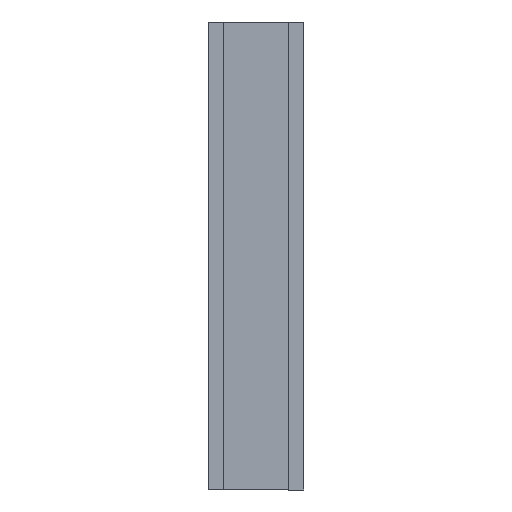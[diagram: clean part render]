
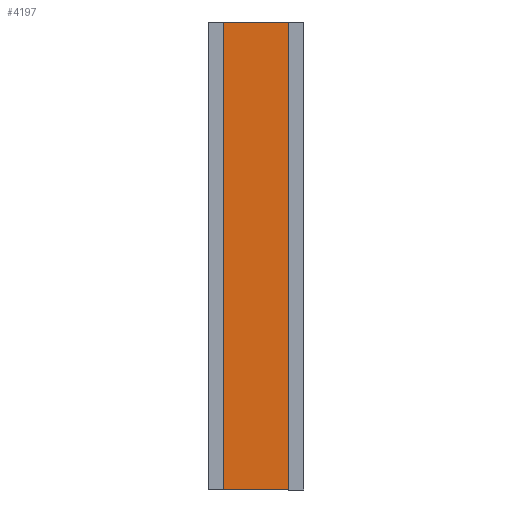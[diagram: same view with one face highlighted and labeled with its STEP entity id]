
A CAD part, left-side view. The second image highlights one B-rep face of the part: STEP entity #4197.
In plain terms, the highlighted planar face has unit normal (-1, 0, 0).
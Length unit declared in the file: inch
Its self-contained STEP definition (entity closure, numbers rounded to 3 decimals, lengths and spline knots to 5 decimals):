
#316 = LINE ( 'NONE', #5793, #2764 ) ;
#1090 = VECTOR ( 'NONE', #8796, 39.37008 ) ;
#1620 = CARTESIAN_POINT ( 'NONE',  ( -1.555, 0.375, -1.3425 ) ) ;
#2076 = VECTOR ( 'NONE', #9515, 39.37008 ) ;
#2213 = ORIENTED_EDGE ( 'NONE', *, *, #4986, .F. ) ;
#2315 = LINE ( 'NONE', #3945, #1090 ) ;
#2343 = CARTESIAN_POINT ( 'NONE',  ( -1.555, 0.375, 1.3425 ) ) ;
#2693 = VERTEX_POINT ( 'NONE', #9944 ) ;
#2764 = VECTOR ( 'NONE', #9122, 39.37008 ) ;
#2903 = VECTOR ( 'NONE', #4877, 39.37008 ) ;
#3080 = LINE ( 'NONE', #2343, #2076 ) ;
#3239 = FACE_OUTER_BOUND ( 'NONE', #6248, .T. ) ;
#3297 = PLANE ( 'NONE',  #7437 ) ;
#3945 = CARTESIAN_POINT ( 'NONE',  ( -1.555, 0., -1.3425 ) ) ;
#3978 = DIRECTION ( 'NONE',  ( 1., 0., 0. ) ) ;
#4197 = ADVANCED_FACE ( 'NONE', ( #3239 ), #3297, .F. ) ;
#4364 = VERTEX_POINT ( 'NONE', #8449 ) ;
#4820 = VERTEX_POINT ( 'NONE', #7898 ) ;
#4877 = DIRECTION ( 'NONE',  ( 0., 0., 1. ) ) ;
#4986 = EDGE_CURVE ( 'NONE', #4364, #8087, #8895, .T. ) ;
#5793 = CARTESIAN_POINT ( 'NONE',  ( -1.555, 0.375, -1.3425 ) ) ;
#6248 = EDGE_LOOP ( 'NONE', ( #6969, #9291, #2213, #7184 ) ) ;
#6448 = DIRECTION ( 'NONE',  ( 0., 0., -1. ) ) ;
#6923 = EDGE_CURVE ( 'NONE', #8087, #2693, #3080, .T. ) ;
#6969 = ORIENTED_EDGE ( 'NONE', *, *, #7971, .T. ) ;
#7172 = CARTESIAN_POINT ( 'NONE',  ( -1.555, 0.375, 1.3425 ) ) ;
#7184 = ORIENTED_EDGE ( 'NONE', *, *, #7668, .T. ) ;
#7437 = AXIS2_PLACEMENT_3D ( 'NONE', #1620, #3978, #6448 ) ;
#7668 = EDGE_CURVE ( 'NONE', #4364, #4820, #316, .T. ) ;
#7898 = CARTESIAN_POINT ( 'NONE',  ( -1.555, 0., -1.3425 ) ) ;
#7971 = EDGE_CURVE ( 'NONE', #4820, #2693, #2315, .T. ) ;
#8087 = VERTEX_POINT ( 'NONE', #7172 ) ;
#8449 = CARTESIAN_POINT ( 'NONE',  ( -1.555, 0.375, -1.3425 ) ) ;
#8796 = DIRECTION ( 'NONE',  ( 0., 0., 1. ) ) ;
#8895 = LINE ( 'NONE', #9002, #2903 ) ;
#9002 = CARTESIAN_POINT ( 'NONE',  ( -1.555, 0.375, -1.3425 ) ) ;
#9122 = DIRECTION ( 'NONE',  ( 0., -1., 0. ) ) ;
#9291 = ORIENTED_EDGE ( 'NONE', *, *, #6923, .F. ) ;
#9515 = DIRECTION ( 'NONE',  ( 0., -1., 0. ) ) ;
#9944 = CARTESIAN_POINT ( 'NONE',  ( -1.555, 0., 1.3425 ) ) ;
